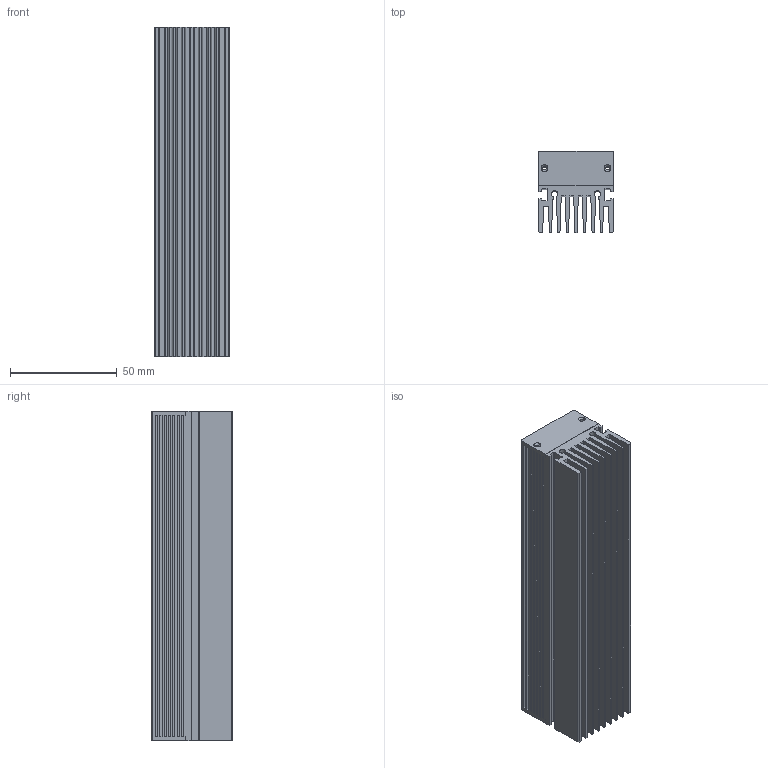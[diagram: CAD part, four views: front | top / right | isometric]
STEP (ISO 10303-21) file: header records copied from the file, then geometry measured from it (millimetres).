
FILE_DESCRIPTION((''),'2;1');
FILE_NAME('HSL','2020-03-25T',('ASUS'),(''),'PRO/ENGINEER BY PARAMETRIC TECHNOLOGY CORPORATION, 2008380','PRO/ENGINEER BY PARAMETRIC TECHNOLOGY CORPORATION, 2008380','');
FILE_SCHEMA(('CONFIG_CONTROL_DESIGN'));
Length unit declared in the file: millimetre
Products named in the file (1): HSL
Bounding box: 35 x 38 x 154 mm (x, y, z)
Volume: 142890.3 mm3; surface area: 75323.7 mm2
Topology: 1 solids, 1 shells, 171 faces, 454 edges, 300 vertices
Faces by surface type: plane 145, cylinder 18, cone 8
Entity records: 5276 total; most frequent: CARTESIAN_POINT 933, ORIENTED_EDGE 908, DIRECTION 836, EDGE_CURVE 454, VECTOR 410, LINE 410, VERTEX_POINT 300, AXIS2_PLACEMENT_3D 213
